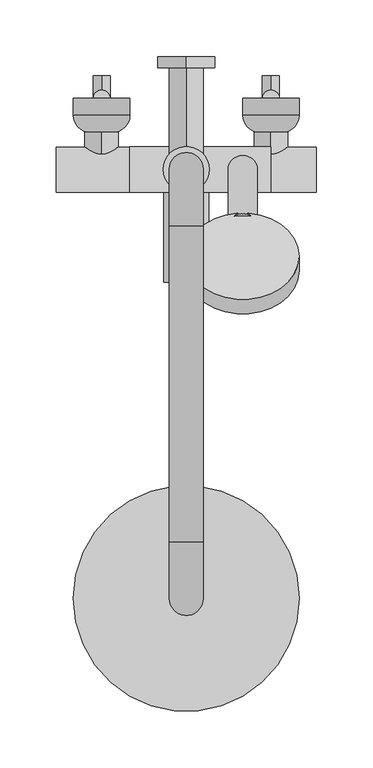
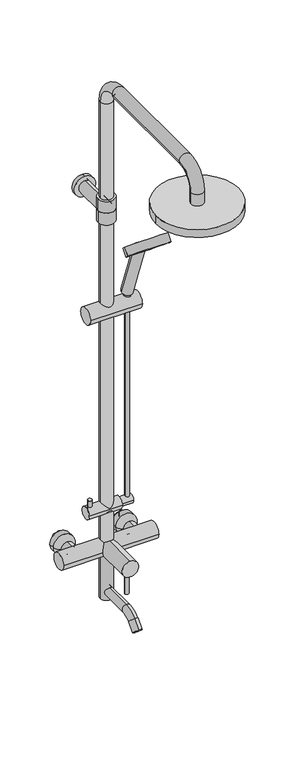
"""IFC4 building model written with IfcOpenShell, lengths in millimetres: flow terminal geometry, 伟星_淋浴套装_圆形 : Rainshower."""

import ifcopenshell
import ifcopenshell.guid

model = None  # the IFC model being written
_history = None  # IfcOwnerHistory: only IFC2X3 demands one
_inside = {}  # id of a spatial element -> (the spatial element, [elements in it])
_under = {}  # id of a project, library or spatial element -> (it, [spatial elements below it])
_declared = {}  # id of a project -> (the project, [libraries it declares])
_typed = {}  # id of a type object -> (the type object, [elements of that type])
_made_of = {}  # id of a material, layer set ... -> (it, [elements and type objects made of it])


def new_model(schema):
    """Start an empty IFC model of exactly this schema.

    Asked for "IFC4X3", IfcOpenShell would pick the latest addendum, in which some entities
    have other attributes; the version numbers below select the first issue.
    IFC2X3 requires an IfcOwnerHistory on every rooted entity: one is made here for all.
    """
    global model, _history
    if schema == "IFC4X3":
        model = ifcopenshell.file(schema_version=(4, 3, 0, 0))
    else:
        model = ifcopenshell.file(schema=schema)
    _inside.clear()
    _under.clear()
    _declared.clear()
    _typed.clear()
    _made_of.clear()
    _history = None
    if model.schema == "IFC2X3":
        org = make("IfcOrganization", Name="unknown")
        user = make(
            "IfcPersonAndOrganization",
            ThePerson=make("IfcPerson", FamilyName="unknown"),
            TheOrganization=org,
        )
        app = make(
            "IfcApplication",
            ApplicationDeveloper=org,
            Version="unknown",
            ApplicationFullName="unknown",
            ApplicationIdentifier="unknown",
        )
        _history = make(
            "IfcOwnerHistory",
            OwningUser=user,
            OwningApplication=app,
            ChangeAction="ADDED",
            CreationDate=0,
        )
    return model


def make(cls, **values):
    """One entity of the class cls with the attributes given. An attribute that is None is left unset."""
    return model.create_entity(
        cls, **{name: value for name, value in values.items() if value is not None}
    )


def rooted(cls, **values):
    """An entity with a GlobalId (a new one), such as an element, a storey or a relation."""
    return make(cls, GlobalId=ifcopenshell.guid.new(), OwnerHistory=_history, **values)


def si_unit(unit_type, name, prefix=None):
    """IfcSIUnit, for example si_unit("LENGTHUNIT", "METRE", prefix="MILLI")."""
    return make("IfcSIUnit", UnitType=unit_type, Prefix=prefix, Name=name)


def assignment(units):
    """IfcUnitAssignment: the units of a project."""
    return None if units is None else make("IfcUnitAssignment", Units=units)


def point(xyz):
    """IfcCartesianPoint."""
    return None if xyz is None else make("IfcCartesianPoint", Coordinates=xyz)


def direction(xyz):
    """IfcDirection."""
    return None if xyz is None else make("IfcDirection", DirectionRatios=xyz)


def frame(location, z_axis=None, x_axis=None):
    """IfcAxis2Placement3D, a coordinate frame: its origin and axes. An axis left out is left unset."""
    return make(
        "IfcAxis2Placement3D",
        Location=point(location),
        Axis=direction(z_axis),
        RefDirection=direction(x_axis),
    )


def frame_2d(location, x_axis=None):
    """IfcAxis2Placement2D, a coordinate frame in the plane: its origin and x axis."""
    return make(
        "IfcAxis2Placement2D", Location=point(location), RefDirection=direction(x_axis)
    )


def origin():
    """The frame at (0, 0, 0) with its axes left unset."""
    return frame((0.0, 0.0, 0.0))


def origin_with_axes():
    """The frame at (0, 0, 0) with the z axis (0, 0, 1) and the x axis (1, 0, 0) written out."""
    return frame((0.0, 0.0, 0.0), z_axis=(0.0, 0.0, 1.0), x_axis=(1.0, 0.0, 0.0))


def origin_2d():
    """The frame at (0, 0) in the plane with its x axis left unset."""
    return frame_2d((0.0, 0.0))


def place(relative_to, where):
    """IfcLocalPlacement: puts the frame where relative to a parent placement (None: the world)."""
    return make(
        "IfcLocalPlacement", PlacementRelTo=relative_to, RelativePlacement=where
    )


def context(
    kind, dimensions, precision=None, world=None, true_north=None, identifier=None
):
    """IfcGeometricRepresentationContext, for example the 3D "Model" context."""
    return make(
        "IfcGeometricRepresentationContext",
        ContextIdentifier=identifier,
        ContextType=kind,
        CoordinateSpaceDimension=dimensions,
        Precision=precision,
        WorldCoordinateSystem=world,
        TrueNorth=true_north,
    )


def project(units=None, contexts=None):
    """IfcProject with its units and contexts."""
    return rooted(
        "IfcProject",
        Name="project",
        RepresentationContexts=contexts,
        UnitsInContext=assignment(units),
    )


def spatial(cls, under=None, at=None, **own):
    """A site, building, storey or space (cls), placed at a placement, below another one or the project."""
    s = rooted(cls, ObjectPlacement=at, **own)
    if under is not None:
        _under.setdefault(under.id(), (under, []))[1].append(s)
    return s


def polyline(points):
    """IfcPolyline through the points."""
    return make("IfcPolyline", Points=[point(p) for p in points])


def circle_curve(where, radius):
    """IfcCircle in the frame where."""
    return make("IfcCircle", Position=where, Radius=radius)


def ellipse_curve(where, semi_axis1, semi_axis2):
    """IfcEllipse in the frame where."""
    return make(
        "IfcEllipse", Position=where, SemiAxis1=semi_axis1, SemiAxis2=semi_axis2
    )


def trimmed(basis, trim1, trim2, sense, master):
    """IfcTrimmedCurve: the piece of a basis curve between two trims."""
    return make(
        "IfcTrimmedCurve",
        BasisCurve=basis,
        Trim1=trim1,
        Trim2=trim2,
        SenseAgreement=sense,
        MasterRepresentation=master,
    )


def segment(curve, same_sense, transition):
    """IfcCompositeCurveSegment."""
    return make(
        "IfcCompositeCurveSegment",
        Transition=transition,
        SameSense=same_sense,
        ParentCurve=curve,
    )


def composite_curve(segments, self_intersect=None):
    """IfcCompositeCurve: segments joined end to end."""
    return make("IfcCompositeCurve", Segments=segments, SelfIntersect=self_intersect)


def outline(outer, holes=None, kind="AREA"):
    """IfcArbitraryClosedProfileDef: a profile drawn as a closed curve; with holes, ...WithVoids."""
    if holes is None:
        return make("IfcArbitraryClosedProfileDef", ProfileType=kind, OuterCurve=outer)
    return make(
        "IfcArbitraryProfileDefWithVoids",
        ProfileType=kind,
        OuterCurve=outer,
        InnerCurves=holes,
    )


def extrude(swept, where, along, depth):
    """IfcExtrudedAreaSolid: the profile swept, set in the frame where, extruded along a direction by depth."""
    return make(
        "IfcExtrudedAreaSolid",
        SweptArea=swept,
        Position=where,
        ExtrudedDirection=direction(along),
        Depth=depth,
    )


def shape(context_of_items, identifier, shape_type, items):
    """IfcShapeRepresentation: the items that make up one representation, for example the "Body"."""
    return make(
        "IfcShapeRepresentation",
        ContextOfItems=context_of_items,
        RepresentationIdentifier=identifier,
        RepresentationType=shape_type,
        Items=items,
    )


def source(mapping_origin, context_of_items, identifier, shape_type, items):
    """IfcRepresentationMap: a shape defined once, which mapped items show again and again."""
    return make(
        "IfcRepresentationMap",
        MappingOrigin=mapping_origin,
        MappedRepresentation=shape(context_of_items, identifier, shape_type, items),
    )


def transform(
    local_origin,
    x_axis=None,
    y_axis=None,
    z_axis=None,
    scale=None,
    scale2=None,
    scale3=None,
    uniform=True,
):
    """IfcCartesianTransformationOperator3D, or its non-uniform kind. x_axis, y_axis, z_axis: its Axis1, 2, 3."""
    if uniform:
        return make(
            "IfcCartesianTransformationOperator3D",
            Axis1=direction(x_axis),
            Axis2=direction(y_axis),
            LocalOrigin=point(local_origin),
            Scale=scale,
            Axis3=direction(z_axis),
        )
    return make(
        "IfcCartesianTransformationOperator3DnonUniform",
        Axis1=direction(x_axis),
        Axis2=direction(y_axis),
        LocalOrigin=point(local_origin),
        Scale=scale,
        Axis3=direction(z_axis),
        Scale2=scale2,
        Scale3=scale3,
    )


def mapped(mapping_source, mapping_target):
    """IfcMappedItem: shows the shape of a source again, moved by a transform."""
    return make(
        "IfcMappedItem", MappingSource=mapping_source, MappingTarget=mapping_target
    )


def made_of(thing, what):
    """Note that an element or type object is made of a material, layer set ...; save() writes the relation."""
    if what is not None:
        _made_of.setdefault(what.id(), (what, []))[1].append(thing)
    return thing


def element(
    cls,
    number,
    at=None,
    inside=None,
    cuts=None,
    type_object=None,
    material=None,
    context=None,
    identifier="Body",
    shape_type=None,
    held_by="IfcProductDefinitionShape",
    body=None,
    shapes=None,
    **own,
):
    """One element of the class cls, such as IfcWall. Its Tag is "e" and its number.

    at: its placement. inside: the storey or other place that contains it. cuts: it is an
    opening in that element (IfcRelVoidsElement). A single representation is given by context,
    identifier, shape_type and body (its items); several are given by shapes. held_by: the class
    of the entity that holds the representations. save() writes the other relations.
    """
    e = rooted(cls, Tag="e%d" % number, ObjectPlacement=at, **own)
    if body is not None:
        shapes = [shape(context, identifier, shape_type, body)]
    if shapes is not None:
        e.Representation = make(held_by, Representations=shapes)
    if inside is not None:
        _inside.setdefault(inside.id(), (inside, []))[1].append(e)
    if cuts is not None:
        rooted(
            "IfcRelVoidsElement", RelatingBuildingElement=cuts, RelatedOpeningElement=e
        )
    if type_object is not None:
        _typed.setdefault(type_object.id(), (type_object, []))[1].append(e)
    return made_of(e, material)


def aggregate(whole, parts):
    """IfcRelAggregates: a whole, such as a stair, and the parts it consists of."""
    return rooted("IfcRelAggregates", RelatingObject=whole, RelatedObjects=parts)


def save(model, path):
    """Write the relations noted so far, then the file.

    IfcRelAggregates (storeys below a building ...), IfcRelContainedInSpatialStructure (elements
    in a storey), IfcRelDefinesByType, IfcRelAssociatesMaterial and IfcRelDeclares: one each for
    every whole, place, type object, material and project.
    """
    for whole, parts in _under.values():
        aggregate(whole, parts)
    for where, things in _inside.values():
        rooted(
            "IfcRelContainedInSpatialStructure",
            RelatedElements=things,
            RelatingStructure=where,
        )
    for kind, things in _typed.values():
        rooted("IfcRelDefinesByType", RelatedObjects=things, RelatingType=kind)
    for what, things in _made_of.values():
        rooted("IfcRelAssociatesMaterial", RelatedObjects=things, RelatingMaterial=what)
    for by, libraries in _declared.values():
        rooted("IfcRelDeclares", RelatingContext=by, RelatedDefinitions=libraries)
    model.write(path)


def plane_surface(at):
    """IfcPlane: the flat surface through the origin of the frame at, square to its z axis."""
    return make("IfcPlane", Position=at)


def cylinder_surface(at, radius):
    """IfcCylindricalSurface: all points at the distance radius from the z axis of the frame at."""
    return make("IfcCylindricalSurface", Position=at, Radius=radius)


def revolved_surface(curve, axis_point, axis_direction):
    """IfcSurfaceOfRevolution: the curve turned about the line through axis_point along axis_direction."""
    return make(
        "IfcSurfaceOfRevolution",
        SweptCurve=make("IfcArbitraryOpenProfileDef", ProfileType="CURVE", Curve=curve),
        AxisPosition=make("IfcAxis1Placement", Location=point(axis_point), Axis=direction(axis_direction)),
    )


def advanced_brep(points, edges, surfaces, faces):
    """IfcAdvancedBrep: a solid bounded by faces that lie on surfaces and meet in shared edges.

    An edge is (start, end): straight between two places in points (the first is 0);
    or (start, end, curve); or (start, end, curve, False) where it runs against its curve.
    A face is (place in surfaces, loops), or (place, loops, False) where it looks against
    its surface's normal. A loop lists edges by number (the first is 1), with a minus sign
    where the edge is run from its end to its start. The first loop is the outer one.
    """
    corners = [point(p) for p in points]
    vertices = [make("IfcVertexPoint", VertexGeometry=c) for c in corners]
    made = []
    for start, end, *more in edges:
        made.append(
            make(
                "IfcEdgeCurve",
                EdgeStart=vertices[start],
                EdgeEnd=vertices[end],
                EdgeGeometry=more[0] if more else make("IfcPolyline", Points=[corners[start], corners[end]]),
                SameSense=more[1] if len(more) > 1 else True,
            )
        )
    hull = []
    for where, loops, *sense in faces:
        bounds = []
        for j, loop in enumerate(loops):
            ring = [make("IfcOrientedEdge", EdgeElement=made[abs(k) - 1], Orientation=k > 0) for k in loop]
            bounds.append(
                make(
                    "IfcFaceOuterBound" if j == 0 else "IfcFaceBound",
                    Bound=make("IfcEdgeLoop", EdgeList=ring),
                    Orientation=True,
                )
            )
        hull.append(make("IfcAdvancedFace", Bounds=bounds, FaceSurface=surfaces[where], SameSense=sense[0] if sense else True))
    return make("IfcAdvancedBrep", Outer=make("IfcClosedShell", CfsFaces=hull))


def flow_terminal_c37f5bd6(model_context):
    return source(origin(), model_context, "Body", "SolidModel", [
        extrude(outline(composite_curve([segment(trimmed(circle_curve(frame_2d((-75.0, 0.0)), 7.5), [point((-75.0, 7.5))], [point((-75.0, -7.5))], False, "CARTESIAN"), True, "CONTINUOUS"), segment(trimmed(circle_curve(frame_2d((-75.0, 0.0)), 7.5), [point((-75.0, -7.5))], [point((-75.0, 7.5))], False, "CARTESIAN"), True, "CONTINUOUS")], self_intersect=False)), origin_with_axes(), (0.0, 0.0, 1.0), 20.0),
        extrude(outline(composite_curve([segment(trimmed(circle_curve(frame_2d((75.0, 0.0)), 7.5), [point((75.0, 7.5))], [point((75.0, -7.5))], False, "CARTESIAN"), True, "CONTINUOUS"), segment(trimmed(circle_curve(frame_2d((75.0, 0.0)), 7.5), [point((75.0, -7.5))], [point((75.0, 7.5))], False, "CARTESIAN"), True, "CONTINUOUS")], self_intersect=False)), origin_with_axes(), (0.0, 0.0, 1.0), 20.0),
        extrude(outline(composite_curve([segment(trimmed(circle_curve(frame_2d((0.0, 75.0)), 7.5), [point((-7.5, 75.0))], [point((7.5, 75.0))], False, "CARTESIAN"), True, "CONTINUOUS"), segment(trimmed(circle_curve(frame_2d((0.0, 75.0)), 7.5), [point((7.5, 75.0))], [point((-7.5, 75.0))], False, "CARTESIAN"), True, "CONTINUOUS")], self_intersect=False)), frame((0.0, 0.0, 0.0), z_axis=(0.0, 1.0, 0.0), x_axis=(0.0, 0.0, 1.0)), (0.0, 0.0, 1.0), 20.0),
        extrude(outline(composite_curve([segment(trimmed(circle_curve(frame_2d((0.0, -75.0)), 7.5), [point((-7.5, -75.0))], [point((7.5, -75.0))], False, "CARTESIAN"), True, "CONTINUOUS"), segment(trimmed(circle_curve(frame_2d((0.0, -75.0)), 7.5), [point((7.5, -75.0))], [point((-7.5, -75.0))], False, "CARTESIAN"), True, "CONTINUOUS")], self_intersect=False)), frame((0.0, 0.0, 0.0), z_axis=(0.0, 1.0, 0.0), x_axis=(0.0, 0.0, 1.0)), (0.0, 0.0, 1.0), 20.0),
        extrude(outline(composite_curve([segment(trimmed(circle_curve(frame_2d((50.0, -63.0)), 5.0), [point((55.0, -63.0))], [point((45.0, -63.0))], False, "CARTESIAN"), True, "CONTINUOUS"), segment(trimmed(circle_curve(frame_2d((50.0, -63.0)), 5.0), [point((45.0, -63.0))], [point((55.0, -63.0))], False, "CARTESIAN"), True, "CONTINUOUS")], self_intersect=False)), frame((0.0, 0.0, 100.0), z_axis=(0.0, 0.0, 1.0), x_axis=(1.0, 0.0, 0.0)), (0.0, 0.0, 1.0), 502.0),
        extrude(outline(composite_curve([segment(trimmed(circle_curve(frame_2d((-63.0, 100.0)), 10.5), [point((-73.5, 100.0))], [point((-52.5, 100.0))], False, "CARTESIAN"), True, "CONTINUOUS"), segment(trimmed(circle_curve(frame_2d((-63.0, 100.0)), 10.5), [point((-52.5, 100.0))], [point((-73.5, 100.0))], False, "CARTESIAN"), True, "CONTINUOUS")], self_intersect=False)), frame((30.0, 0.0, 0.0), z_axis=(1.0, 0.0, 0.0), x_axis=(0.0, 1.0, 0.0)), (0.0, 0.0, 1.0), 30.0),
        advanced_brep(
        [(0.0, -63.0, -99.5), (0.0, -63.0, -120.5), (0.0, -146.4314575, -99.5), (0.0, -146.4314575, -120.5), (0.0, -167.2911076, -129.14035), (0.0, -182.14035, -114.2911076), (0.0, -200.4246212, -132.5753788), (0.0, -185.5753788, -147.4246212)],
        [
            (0, 1, circle_curve(frame((0.0, -63.0, -110.0), z_axis=(0.0, 1.0, 0.0), x_axis=(0.0, 0.0, -1.0)), 10.5)),
            (1, 0, circle_curve(frame((0.0, -63.0, -110.0), z_axis=(0.0, 1.0, 0.0), x_axis=(0.0, 0.0, -1.0)), 10.5)),
            (0, 2),
            (2, 3, circle_curve(frame((0.0, -146.4314575, -110.0), z_axis=(0.0, 1.0, 0.0), x_axis=(0.0, 0.0, -1.0)), 10.5)),
            (3, 1),
            (3, 2, circle_curve(frame((0.0, -146.4314575, -110.0), z_axis=(0.0, 1.0, 0.0), x_axis=(0.0, 0.0, -1.0)), 10.5)),
            (4, 3, circle_curve(frame((0.0, -146.4314575, -150.0), z_axis=(-1.0, 0.0, 0.0), x_axis=(0.0, 0.0, 1.0)), 29.5)),
            (2, 5, circle_curve(frame((0.0, -146.4314575, -150.0), z_axis=(1.0, 0.0, 0.0), x_axis=(0.0, 0.0, 1.0)), 50.5)),
            (5, 4, circle_curve(frame((0.0, -174.7157288, -121.7157288), z_axis=(0.0, 0.7071067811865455, 0.7071067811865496), x_axis=(0.0, 0.7071067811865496, -0.7071067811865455)), 10.5)),
            (4, 5, circle_curve(frame((0.0, -174.7157288, -121.7157288), z_axis=(0.0, 0.7071067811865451, 0.7071067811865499), x_axis=(0.0, 0.7071067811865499, -0.7071067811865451)), 10.5)),
            (6, 7, circle_curve(frame((0.0, -193.0, -140.0), z_axis=(0.0, -0.707106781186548, -0.707106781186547), x_axis=(0.0, 0.707106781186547, -0.707106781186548)), 10.5)),
            (7, 6, circle_curve(frame((0.0, -193.0, -140.0), z_axis=(0.0, -0.707106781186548, -0.707106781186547), x_axis=(0.0, 0.707106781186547, -0.707106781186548)), 10.5)),
            (5, 6),
            (7, 4),
        ],
        [
            plane_surface(frame((0.0, -63.0, -110.0), z_axis=(0.0, 1.0, 0.0), x_axis=(1.0, 0.0, 0.0))),
            cylinder_surface(frame((0.0, -63.0, -110.0), z_axis=(0.0, 1.0, 0.0), x_axis=(0.0, 0.0, -1.0)), 10.5),
            revolved_surface(trimmed(ellipse_curve(frame((0.0, -146.4314575, -110.0), z_axis=(0.0, 1.0, 0.0), x_axis=(0.0, 0.0, -1.0)), 10.5, 10.5), [point((0.0, -146.4314575, -99.5))], [point((0.0, -146.4314575, -120.5))], True, "CARTESIAN"), (0.0, -146.4314575, -150.0), (1.0, 0.0, 0.0)),
            revolved_surface(trimmed(ellipse_curve(frame((0.0, -146.4314575, -110.0), z_axis=(0.0, 1.0, 0.0), x_axis=(0.0, 0.0, -1.0)), 10.5, 10.5), [point((0.0, -146.4314575, -120.5))], [point((0.0, -146.4314575, -99.5))], True, "CARTESIAN"), (0.0, -146.4314575, -150.0), (1.0, 0.0, 0.0)),
            plane_surface(frame((0.0, -193.0, -140.0), z_axis=(0.0, -0.707106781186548, -0.7071067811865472), x_axis=(1.0, 0.0, 0.0))),
            cylinder_surface(frame((0.0, -174.7157288, -121.7157288), z_axis=(0.0, 0.707106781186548, 0.707106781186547), x_axis=(0.0, 0.707106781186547, -0.707106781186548)), 10.5),
        ],
        [
            (0, [[1, 2]]),
            (1, [[-1, 3, 4, 5]]),
            (1, [[-2, -5, 6, -3]]),
            (2, [[7, -4, 8, 9]]),
            (3, [[-8, -6, -7, 10]]),
            (4, [[11, 12]]),
            (5, [[-9, 13, -12, 14]]),
            (5, [[-10, -14, -11, -13]]),
        ],
    ),
        extrude(outline(composite_curve([segment(trimmed(circle_curve(frame_2d((0.0, -63.0)), 15.0), [point((15.0, -63.0))], [point((-15.0, -63.0))], False, "CARTESIAN"), True, "CONTINUOUS"), segment(trimmed(circle_curve(frame_2d((0.0, -63.0)), 15.0), [point((-15.0, -63.0))], [point((15.0, -63.0))], False, "CARTESIAN"), True, "CONTINUOUS")], self_intersect=False)), frame((0.0, 0.0, -130.0), z_axis=(0.0, 0.0, 1.0), x_axis=(1.0, 0.0, 0.0)), (0.0, 0.0, 1.0), 130.0),
        extrude(outline(composite_curve([segment(trimmed(circle_curve(frame_2d((0.0, -148.0)), 5.0), [point((5.0, -148.0))], [point((-5.0, -148.0))], False, "CARTESIAN"), True, "CONTINUOUS"), segment(trimmed(circle_curve(frame_2d((0.0, -148.0)), 5.0), [point((-5.0, -148.0))], [point((5.0, -148.0))], False, "CARTESIAN"), True, "CONTINUOUS")], self_intersect=False)), frame((0.0, 0.0, -70.0), z_axis=(0.0, 0.0, 1.0), x_axis=(1.0, 0.0, 0.0)), (0.0, 0.0, 1.0), 70.0),
        extrude(outline(composite_curve([segment(trimmed(circle_curve(origin_2d(), 20.0), [point((20.0, 0.0))], [point((-20.0, 0.0))], False, "CARTESIAN"), True, "CONTINUOUS"), segment(trimmed(circle_curve(origin_2d(), 20.0), [point((-20.0, 0.0))], [point((20.0, 0.0))], False, "CARTESIAN"), True, "CONTINUOUS")], self_intersect=False)), frame((0.0, -163.0, 0.0), z_axis=(0.0, 1.0, 0.0), x_axis=(0.0, 0.0, 1.0)), (0.0, 0.0, 1.0), 100.0),
        extrude(outline(composite_curve([segment(trimmed(circle_curve(frame_2d((-40.0, -63.0)), 5.0), [point((-45.0, -63.0))], [point((-35.0, -63.0))], False, "CARTESIAN"), True, "CONTINUOUS"), segment(trimmed(circle_curve(frame_2d((-40.0, -63.0)), 5.0), [point((-35.0, -63.0))], [point((-45.0, -63.0))], False, "CARTESIAN"), True, "CONTINUOUS")], self_intersect=False)), frame((0.0, 0.0, 100.0), z_axis=(0.0, 0.0, 1.0), x_axis=(1.0, 0.0, 0.0)), (0.0, 0.0, 1.0), 30.0),
        advanced_brep(
        [(65.0, -30.0, 0.0), (85.0, -30.0, 0.0), (76.0, -30.0, 0.0), (74.0, -30.0, 0.0), (50.0, -15.0, 0.0), (100.0, -15.0, 0.0), (50.0, 0.0, 0.0), (100.0, 0.0, 0.0), (74.0, 0.0, 0.0), (76.0, 0.0, 0.0)],
        [
            (0, 1, circle_curve(frame((75.0, -30.0, 0.0), z_axis=(0.0, -1.0, 0.0), x_axis=(1.0, 0.0, 0.0)), 10.0)),
            (1, 2),
            (2, 3, circle_curve(frame((75.0, -30.0, 0.0), z_axis=(0.0, 1.0, 0.0), x_axis=(1.0, 0.0, 0.0)), 1.0)),
            (3, 0),
            (1, 0, circle_curve(frame((75.0, -30.0, 0.0), z_axis=(0.0, -1.0, 0.0), x_axis=(1.0, 0.0, 0.0)), 10.0)),
            (3, 2, circle_curve(frame((75.0, -30.0, 0.0), z_axis=(0.0, 1.0, 0.0), x_axis=(1.0, 0.0, 0.0)), 1.0)),
            (4, 5, circle_curve(frame((75.0, -15.0, 0.0), z_axis=(0.0, -1.0, 0.0), x_axis=(1.0, 0.0, 0.0)), 25.0)),
            (5, 1, circle_curve(frame((85.0, -15.0, 0.0), z_axis=(0.0, 0.0, -1.0), x_axis=(0.0, 1.0, 0.0)), 15.0)),
            (0, 4, circle_curve(frame((65.0, -15.0, 0.0), z_axis=(0.0, 0.0, -1.0), x_axis=(0.0, 1.0, 0.0)), 15.0)),
            (5, 4, circle_curve(frame((75.0, -15.0, 0.0), z_axis=(0.0, -1.0, 0.0), x_axis=(1.0, 0.0, 0.0)), 25.0)),
            (6, 7, circle_curve(frame((75.0, 0.0, 0.0), z_axis=(0.0, -1.0, 0.0), x_axis=(1.0, 0.0, 0.0)), 25.0)),
            (7, 5),
            (4, 6),
            (7, 6, circle_curve(frame((75.0, 0.0, 0.0), z_axis=(0.0, -1.0, 0.0), x_axis=(1.0, 0.0, 0.0)), 25.0)),
            (8, 9, circle_curve(frame((75.0, 0.0, 0.0), z_axis=(0.0, -1.0, 0.0), x_axis=(1.0, 0.0, 0.0)), 1.0)),
            (9, 7),
            (6, 8),
            (9, 8, circle_curve(frame((75.0, 0.0, 0.0), z_axis=(0.0, -1.0, 0.0), x_axis=(1.0, 0.0, 0.0)), 1.0)),
            (2, 9),
            (8, 3),
        ],
        [
            plane_surface(frame((75.0, -30.0, 0.0), z_axis=(0.0, -1.0, 0.0), x_axis=(1.0, 0.0, 0.0))),
            revolved_surface(trimmed(ellipse_curve(frame((85.0, -15.0, 0.0), z_axis=(0.0, 0.0, 1.0), x_axis=(0.0, 1.0, 0.0)), 15.0, 15.0), [point((85.0, -30.0, 0.0))], [point((100.0, -15.0, 0.0))], True, "CARTESIAN"), (75.0, 0.0, 0.0), (0.0, 1.0, 0.0)),
            cylinder_surface(frame((75.0, 0.0, 0.0), z_axis=(0.0, 1.0, 0.0), x_axis=(1.0, 0.0, 0.0)), 25.0),
            plane_surface(frame((75.0, 0.0, 0.0), z_axis=(0.0, 1.0, 0.0), x_axis=(1.0, 0.0, 0.0))),
            revolved_surface(polyline([(76.0, 0.0, 0.0), (76.0, -30.0, 0.0)]), (75.0, 0.0, 0.0), (0.0, 1.0, 0.0)),
        ],
        [
            (0, [[1, 2, 3, 4]]),
            (0, [[5, -4, 6, -2]]),
            (1, [[7, 8, -1, 9]]),
            (1, [[10, -9, -5, -8]]),
            (2, [[11, 12, -7, 13]]),
            (2, [[14, -13, -10, -12]]),
            (3, [[15, 16, -11, 17]]),
            (3, [[18, -17, -14, -16]]),
            (4, [[-3, 19, -15, 20]]),
            (4, [[-6, -20, -18, -19]]),
        ],
    ),
        advanced_brep(
        [(-85.0, -30.0, 0.0), (-65.0, -30.0, 0.0), (-74.0, -30.0, 0.0), (-76.0, -30.0, 0.0), (-100.0, -15.0, 0.0), (-50.0, -15.0, 0.0), (-100.0, 0.0, 0.0), (-50.0, 0.0, 0.0), (-76.0, 0.0, 0.0), (-74.0, 0.0, 0.0)],
        [
            (0, 1, circle_curve(frame((-75.0, -30.0, 0.0), z_axis=(0.0, -1.0, 0.0), x_axis=(1.0, 0.0, 0.0)), 10.0)),
            (1, 2),
            (2, 3, circle_curve(frame((-75.0, -30.0, 0.0), z_axis=(0.0, 1.0, 0.0), x_axis=(1.0, 0.0, 0.0)), 1.0)),
            (3, 0),
            (1, 0, circle_curve(frame((-75.0, -30.0, 0.0), z_axis=(0.0, -1.0, 0.0), x_axis=(1.0, 0.0, 0.0)), 10.0)),
            (3, 2, circle_curve(frame((-75.0, -30.0, 0.0), z_axis=(0.0, 1.0, 0.0), x_axis=(1.0, 0.0, 0.0)), 1.0)),
            (4, 5, circle_curve(frame((-75.0, -15.0, 0.0), z_axis=(0.0, -1.0, 0.0), x_axis=(1.0, 0.0, 0.0)), 25.0)),
            (5, 1, circle_curve(frame((-65.0, -15.0, 0.0), z_axis=(0.0, 0.0, -1.0), x_axis=(0.0, 1.0, 0.0)), 15.0)),
            (0, 4, circle_curve(frame((-85.0, -15.0, 0.0), z_axis=(0.0, 0.0, -1.0), x_axis=(0.0, 1.0, 0.0)), 15.0)),
            (5, 4, circle_curve(frame((-75.0, -15.0, 0.0), z_axis=(0.0, -1.0, 0.0), x_axis=(1.0, 0.0, 0.0)), 25.0)),
            (6, 7, circle_curve(frame((-75.0, 0.0, 0.0), z_axis=(0.0, -1.0, 0.0), x_axis=(1.0, 0.0, 0.0)), 25.0)),
            (7, 5),
            (4, 6),
            (7, 6, circle_curve(frame((-75.0, 0.0, 0.0), z_axis=(0.0, -1.0, 0.0), x_axis=(1.0, 0.0, 0.0)), 25.0)),
            (8, 9, circle_curve(frame((-75.0, 0.0, 0.0), z_axis=(0.0, -1.0, 0.0), x_axis=(1.0, 0.0, 0.0)), 1.0)),
            (9, 7),
            (6, 8),
            (9, 8, circle_curve(frame((-75.0, 0.0, 0.0), z_axis=(0.0, -1.0, 0.0), x_axis=(1.0, 0.0, 0.0)), 1.0)),
            (2, 9),
            (8, 3),
        ],
        [
            plane_surface(frame((-75.0, -30.0, 0.0), z_axis=(0.0, -1.0, 0.0), x_axis=(1.0, 0.0, 0.0))),
            revolved_surface(trimmed(ellipse_curve(frame((-65.0, -15.0, 0.0), z_axis=(0.0, 0.0, 1.0), x_axis=(0.0, 1.0, 0.0)), 15.0, 15.0), [point((-65.0, -30.0, 0.0))], [point((-50.0, -15.0, 0.0))], True, "CARTESIAN"), (-75.0, 0.0, 0.0), (0.0, 1.0, 0.0)),
            cylinder_surface(frame((-75.0, 0.0, 0.0), z_axis=(0.0, 1.0, 0.0), x_axis=(1.0, 0.0, 0.0)), 25.0),
            plane_surface(frame((-75.0, 0.0, 0.0), z_axis=(0.0, 1.0, 0.0), x_axis=(1.0, 0.0, 0.0))),
            revolved_surface(polyline([(-74.0, 0.0, 0.0), (-74.0, -30.0, 0.0)]), (-75.0, 0.0, 0.0), (0.0, 1.0, 0.0)),
        ],
        [
            (0, [[1, 2, 3, 4]]),
            (0, [[5, -4, 6, -2]]),
            (1, [[7, 8, -1, 9]]),
            (1, [[10, -9, -5, -8]]),
            (2, [[11, 12, -7, 13]]),
            (2, [[14, -13, -10, -12]]),
            (3, [[15, 16, -11, 17]]),
            (3, [[18, -17, -14, -16]]),
            (4, [[-3, 19, -15, 20]]),
            (4, [[-6, -20, -18, -19]]),
        ],
    ),
        extrude(outline(composite_curve([segment(trimmed(circle_curve(frame_2d((-63.0, 100.0)), 15.0), [point((-78.0, 100.0))], [point((-48.0, 100.0))], False, "CARTESIAN"), True, "CONTINUOUS"), segment(trimmed(circle_curve(frame_2d((-63.0, 100.0)), 15.0), [point((-48.0, 100.0))], [point((-78.0, 100.0))], False, "CARTESIAN"), True, "CONTINUOUS")], self_intersect=False)), frame((-50.0, 0.0, 0.0), z_axis=(1.0, 0.0, 0.0), x_axis=(0.0, 1.0, 0.0)), (0.0, 0.0, 1.0), 80.0),
        extrude(outline(composite_curve([segment(trimmed(circle_curve(frame_2d((50.0, -63.0)), 8.0), [point((42.0, -63.0))], [point((58.0, -63.0))], False, "CARTESIAN"), True, "CONTINUOUS"), segment(trimmed(circle_curve(frame_2d((50.0, -63.0)), 8.0), [point((58.0, -63.0))], [point((42.0, -63.0))], False, "CARTESIAN"), True, "CONTINUOUS")], self_intersect=False)), frame((0.0, 0.0, 602.0), z_axis=(0.0, 0.0, 1.0), x_axis=(1.0, 0.0, 0.0)), (0.0, 0.0, 1.0), 45.0),
        extrude(outline(composite_curve([segment(trimmed(circle_curve(frame_2d((0.0, -50.0)), 50.0), [point((0.0, -100.0))], [point((0.0, 0.0))], False, "CARTESIAN"), True, "CONTINUOUS"), segment(trimmed(circle_curve(frame_2d((0.0, -50.0)), 50.0), [point((0.0, 0.0))], [point((0.0, -100.0))], False, "CARTESIAN"), True, "CONTINUOUS")], self_intersect=False)), frame((100.0, -152.7544044, 790.8840674), z_axis=(0.0, 0.642787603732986, 0.7660444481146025), x_axis=(0.0, -0.7660444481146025, 0.642787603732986)), (0.0, 0.0, 1.0), 20.0),
        extrude(outline(composite_curve([segment(trimmed(circle_curve(frame_2d((0.0, -13.0)), 13.0), [point((13.0, -13.0))], [point((-13.0, -13.0))], False, "CARTESIAN"), True, "CONTINUOUS"), segment(trimmed(circle_curve(frame_2d((0.0, -13.0)), 13.0), [point((-13.0, -13.0))], [point((13.0, -13.0))], False, "CARTESIAN"), True, "CONTINUOUS")], self_intersect=False)), frame((50.0, -75.2160041, 627.5537381), z_axis=(0.0, -0.34202014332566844, 0.9396926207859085), x_axis=(-1.0, 0.0, 0.0)), (0.0, 0.0, 1.0), 150.0),
        extrude(outline(composite_curve([segment(trimmed(circle_curve(frame_2d((-63.0, 602.0)), 20.25), [point((-83.25, 602.0))], [point((-42.75, 602.0))], False, "CARTESIAN"), True, "CONTINUOUS"), segment(trimmed(circle_curve(frame_2d((-63.0, 602.0)), 20.25), [point((-42.75, 602.0))], [point((-83.25, 602.0))], False, "CARTESIAN"), True, "CONTINUOUS")], self_intersect=False)), frame((-50.0, 0.0, 0.0), z_axis=(1.0, 0.0, 0.0), x_axis=(0.0, 1.0, 0.0)), (0.0, 0.0, 1.0), 125.0),
        extrude(outline(composite_curve([segment(trimmed(circle_curve(frame_2d((860.0, 0.0)), 25.5), [point((885.5, 0.0))], [point((834.5, 0.0))], False, "CARTESIAN"), True, "CONTINUOUS"), segment(trimmed(circle_curve(frame_2d((860.0, 0.0)), 25.5), [point((834.5, 0.0))], [point((885.5, 0.0))], False, "CARTESIAN"), True, "CONTINUOUS")], self_intersect=False)), frame((0.0, 27.0, 0.0), z_axis=(0.0, 1.0, 0.0), x_axis=(0.0, 0.0, 1.0)), (0.0, 0.0, 1.0), 10.0),
        extrude(outline(composite_curve([segment(trimmed(circle_curve(frame_2d((860.0, 0.0)), 15.0), [point((845.0, 0.0))], [point((875.0, 0.0))], False, "CARTESIAN"), True, "CONTINUOUS"), segment(trimmed(circle_curve(frame_2d((860.0, 0.0)), 15.0), [point((875.0, 0.0))], [point((845.0, 0.0))], False, "CARTESIAN"), True, "CONTINUOUS")], self_intersect=False)), frame((0.0, -63.0, 0.0), z_axis=(0.0, 1.0, 0.0), x_axis=(0.0, 0.0, 1.0)), (0.0, 0.0, 1.0), 100.0),
        extrude(outline(composite_curve([segment(trimmed(circle_curve(frame_2d((0.0, -63.0)), 20.25), [point((20.25, -63.0))], [point((-20.25, -63.0))], False, "CARTESIAN"), True, "CONTINUOUS"), segment(trimmed(circle_curve(frame_2d((0.0, -63.0)), 20.25), [point((-20.25, -63.0))], [point((20.25, -63.0))], False, "CARTESIAN"), True, "CONTINUOUS")], self_intersect=False)), frame((0.0, 0.0, 830.0), z_axis=(0.0, 0.0, 1.0), x_axis=(1.0, 0.0, 0.0)), (0.0, 0.0, 1.0), 30.0),
        extrude(outline(composite_curve([segment(trimmed(circle_curve(frame_2d((0.0, -63.0)), 20.25), [point((-20.25, -63.0))], [point((20.25, -63.0))], False, "CARTESIAN"), True, "CONTINUOUS"), segment(trimmed(circle_curve(frame_2d((0.0, -63.0)), 20.25), [point((20.25, -63.0))], [point((-20.25, -63.0))], False, "CARTESIAN"), True, "CONTINUOUS")], self_intersect=False)), frame((0.0, 0.0, 860.0), z_axis=(0.0, 0.0, 1.0), x_axis=(1.0, 0.0, 0.0)), (0.0, 0.0, 1.0), 30.0),
        extrude(outline(composite_curve([segment(trimmed(circle_curve(frame_2d((0.0, -443.0)), 100.0), [point((-100.0, -443.0))], [point((100.0, -443.0))], False, "CARTESIAN"), True, "CONTINUOUS"), segment(trimmed(circle_curve(frame_2d((0.0, -443.0)), 100.0), [point((100.0, -443.0))], [point((-100.0, -443.0))], False, "CARTESIAN"), True, "CONTINUOUS")], self_intersect=False)), frame((0.0, 0.0, 1085.0), z_axis=(0.0, 0.0, 1.0), x_axis=(1.0, 0.0, 0.0)), (0.0, 0.0, 1.0), 20.0),
        advanced_brep(
        [(-15.0, -63.0, 0.0), (15.0, -63.0, 0.0), (-15.0, -63.0, 1135.0), (15.0, -63.0, 1135.0), (15.0, -113.0, 1185.0), (-15.0, -113.0, 1185.0), (-15.0, -393.0, 1185.0), (15.0, -393.0, 1185.0), (15.0, -443.0, 1135.0), (-15.0, -443.0, 1135.0), (-15.0, -443.0, 1085.0), (15.0, -443.0, 1085.0)],
        [
            (0, 1, circle_curve(frame((0.0, -63.0, 0.0), z_axis=(0.0, 0.0, -1.0), x_axis=(0.0, -1.0, 0.0)), 15.0)),
            (1, 0, circle_curve(frame((0.0, -63.0, 0.0), z_axis=(0.0, 0.0, -1.0), x_axis=(0.0, -1.0, 0.0)), 15.0)),
            (0, 2),
            (2, 3, circle_curve(frame((0.0, -63.0, 1135.0), z_axis=(0.0, 0.0, -1.0), x_axis=(0.0, -1.0, 0.0)), 15.0)),
            (3, 1),
            (3, 2, circle_curve(frame((0.0, -63.0, 1135.0), z_axis=(0.0, 0.0, -1.0), x_axis=(0.0, -1.0, 0.0)), 15.0)),
            (4, 3, circle_curve(frame((15.0, -113.0, 1135.0), z_axis=(-1.0, 0.0, 0.0), x_axis=(0.0, 1.0, 0.0)), 50.0)),
            (2, 5, circle_curve(frame((-15.0, -113.0, 1135.0), z_axis=(1.0, 0.0, 0.0), x_axis=(0.0, 1.0, 0.0)), 50.0)),
            (5, 4, circle_curve(frame((0.0, -113.0, 1185.0), z_axis=(0.0, 1.0, 0.0), x_axis=(0.0, 0.0, -1.0)), 15.0)),
            (4, 5, circle_curve(frame((0.0, -113.0, 1185.0), z_axis=(0.0, 1.0, 0.0), x_axis=(0.0, 0.0, -1.0)), 15.0)),
            (5, 6),
            (6, 7, circle_curve(frame((0.0, -393.0, 1185.0), z_axis=(0.0, 1.0, 0.0), x_axis=(0.0, 0.0, -1.0)), 15.0)),
            (7, 4),
            (7, 6, circle_curve(frame((0.0, -393.0, 1185.0), z_axis=(0.0, 1.0, 0.0), x_axis=(0.0, 0.0, -1.0)), 15.0)),
            (8, 7, circle_curve(frame((15.0, -393.0, 1135.0), z_axis=(-1.0, 0.0, 0.0), x_axis=(0.0, 0.0, 1.0)), 50.0)),
            (6, 9, circle_curve(frame((-15.0, -393.0, 1135.0), z_axis=(1.0, 0.0, 0.0), x_axis=(0.0, 0.0, 1.0)), 50.0)),
            (9, 8, circle_curve(frame((0.0, -443.0, 1135.0), z_axis=(0.0, 0.0, 1.0), x_axis=(0.0, 1.0, 0.0)), 15.0)),
            (8, 9, circle_curve(frame((0.0, -443.0, 1135.0), z_axis=(0.0, 0.0, 1.0), x_axis=(0.0, 1.0, 0.0)), 15.0)),
            (10, 11, circle_curve(frame((0.0, -443.0, 1085.0), z_axis=(0.0, 0.0, -1.0), x_axis=(0.0, 1.0, 0.0)), 15.0)),
            (11, 10, circle_curve(frame((0.0, -443.0, 1085.0), z_axis=(0.0, 0.0, -1.0), x_axis=(0.0, 1.0, 0.0)), 15.0)),
            (9, 10),
            (11, 8),
        ],
        [
            plane_surface(frame((0.0, -63.0, 0.0), z_axis=(0.0, 0.0, -1.0), x_axis=(1.0, 0.0, 0.0))),
            cylinder_surface(frame((0.0, -63.0, 0.0), z_axis=(0.0, 0.0, -1.0), x_axis=(0.0, -1.0, 0.0)), 15.0),
            revolved_surface(trimmed(ellipse_curve(frame((0.0, -63.0, 1135.0), z_axis=(0.0, 0.0, -1.0), x_axis=(0.0, -1.0, 0.0)), 15.0, 15.0), [point((-15.0, -63.0, 1135.0))], [point((15.0, -63.0, 1135.0))], True, "CARTESIAN"), (0.0, -113.0, 1135.0), (1.0, 0.0, 0.0)),
            revolved_surface(trimmed(ellipse_curve(frame((0.0, -63.0, 1135.0), z_axis=(0.0, 0.0, -1.0), x_axis=(0.0, -1.0, 0.0)), 15.0, 15.0), [point((15.0, -63.0, 1135.0))], [point((-15.0, -63.0, 1135.0))], True, "CARTESIAN"), (0.0, -113.0, 1135.0), (1.0, 0.0, 0.0)),
            cylinder_surface(frame((0.0, -113.0, 1185.0), z_axis=(0.0, 1.0, 0.0), x_axis=(0.0, 0.0, -1.0)), 15.0),
            revolved_surface(trimmed(ellipse_curve(frame((0.0, -393.0, 1185.0), z_axis=(0.0, 1.0, 0.0), x_axis=(0.0, 0.0, -1.0)), 15.0, 15.0), [point((-15.0, -393.0, 1185.0))], [point((15.0, -393.0, 1185.0))], True, "CARTESIAN"), (0.0, -393.0, 1135.0), (1.0, 0.0, 0.0)),
            revolved_surface(trimmed(ellipse_curve(frame((0.0, -393.0, 1185.0), z_axis=(0.0, 1.0, 0.0), x_axis=(0.0, 0.0, -1.0)), 15.0, 15.0), [point((15.0, -393.0, 1185.0))], [point((-15.0, -393.0, 1185.0))], True, "CARTESIAN"), (0.0, -393.0, 1135.0), (1.0, 0.0, 0.0)),
            plane_surface(frame((0.0, -443.0, 1085.0), z_axis=(0.0, 0.0, -1.0), x_axis=(1.0, 0.0, 0.0))),
            cylinder_surface(frame((0.0, -443.0, 1135.0), z_axis=(0.0, 0.0, 1.0), x_axis=(0.0, 1.0, 0.0)), 15.0),
        ],
        [
            (0, [[1, 2]]),
            (1, [[-1, 3, 4, 5]]),
            (1, [[-2, -5, 6, -3]]),
            (2, [[7, -4, 8, 9]]),
            (3, [[-8, -6, -7, 10]]),
            (4, [[-9, 11, 12, 13]]),
            (4, [[-10, -13, 14, -11]]),
            (5, [[15, -12, 16, 17]]),
            (6, [[-16, -14, -15, 18]]),
            (7, [[19, 20]]),
            (8, [[-17, 21, -20, 22]]),
            (8, [[-18, -22, -19, -21]]),
        ],
    ),
        extrude(outline(composite_curve([segment(trimmed(circle_curve(frame_2d((-63.0, 0.0)), 20.0), [point((-83.0, 0.0))], [point((-43.0, 0.0))], False, "CARTESIAN"), True, "CONTINUOUS"), segment(trimmed(circle_curve(frame_2d((-63.0, 0.0)), 20.0), [point((-43.0, 0.0))], [point((-83.0, 0.0))], False, "CARTESIAN"), True, "CONTINUOUS")], self_intersect=False)), frame((-115.0, 0.0, 0.0), z_axis=(1.0, 0.0, 0.0), x_axis=(0.0, 1.0, 0.0)), (0.0, 0.0, 1.0), 230.0),
        extrude(outline(composite_curve([segment(trimmed(circle_curve(frame_2d((0.0, 75.0)), 15.0), [point((15.0, 75.0))], [point((-15.0, 75.0))], False, "CARTESIAN"), True, "CONTINUOUS"), segment(trimmed(circle_curve(frame_2d((0.0, 75.0)), 15.0), [point((-15.0, 75.0))], [point((15.0, 75.0))], False, "CARTESIAN"), True, "CONTINUOUS")], self_intersect=False)), frame((0.0, -69.0, 0.0), z_axis=(0.0, 1.0, 0.0), x_axis=(0.0, 0.0, 1.0)), (0.0, 0.0, 1.0), 39.0),
        extrude(outline(composite_curve([segment(trimmed(circle_curve(frame_2d((0.0, -75.0)), 15.0), [point((15.0, -75.0))], [point((-15.0, -75.0))], False, "CARTESIAN"), True, "CONTINUOUS"), segment(trimmed(circle_curve(frame_2d((0.0, -75.0)), 15.0), [point((-15.0, -75.0))], [point((15.0, -75.0))], False, "CARTESIAN"), True, "CONTINUOUS")], self_intersect=False)), frame((0.0, -69.0, 0.0), z_axis=(0.0, 1.0, 0.0), x_axis=(0.0, 0.0, 1.0)), (0.0, 0.0, 1.0), 39.0),
    ])


if __name__ == "__main__":
    model = new_model("IFC4")
    model_context = context("Model", 3, world=origin())
    ifc_project = project(units=[si_unit("LENGTHUNIT", "METRE", prefix="MILLI")], contexts=[model_context])
    site = spatial("IfcSite", under=ifc_project)
    building = spatial("IfcBuilding", under=site)
    placement = place(None, origin())
    flow_terminal_shape = flow_terminal_c37f5bd6(model_context)
    element("IfcFlowTerminal", 1, ObjectType="伟星_淋浴套装_圆形 : Rainshower", at=placement, inside=building, context=model_context, shape_type="MappedRepresentation", body=[
        mapped(flow_terminal_shape, transform((0.0, 0.0, 0.0), x_axis=(1.0, 0.0, 0.0), y_axis=(0.0, 1.0, 0.0), z_axis=(0.0, 0.0, 1.0))),
    ])
    save(model, "model.ifc")
